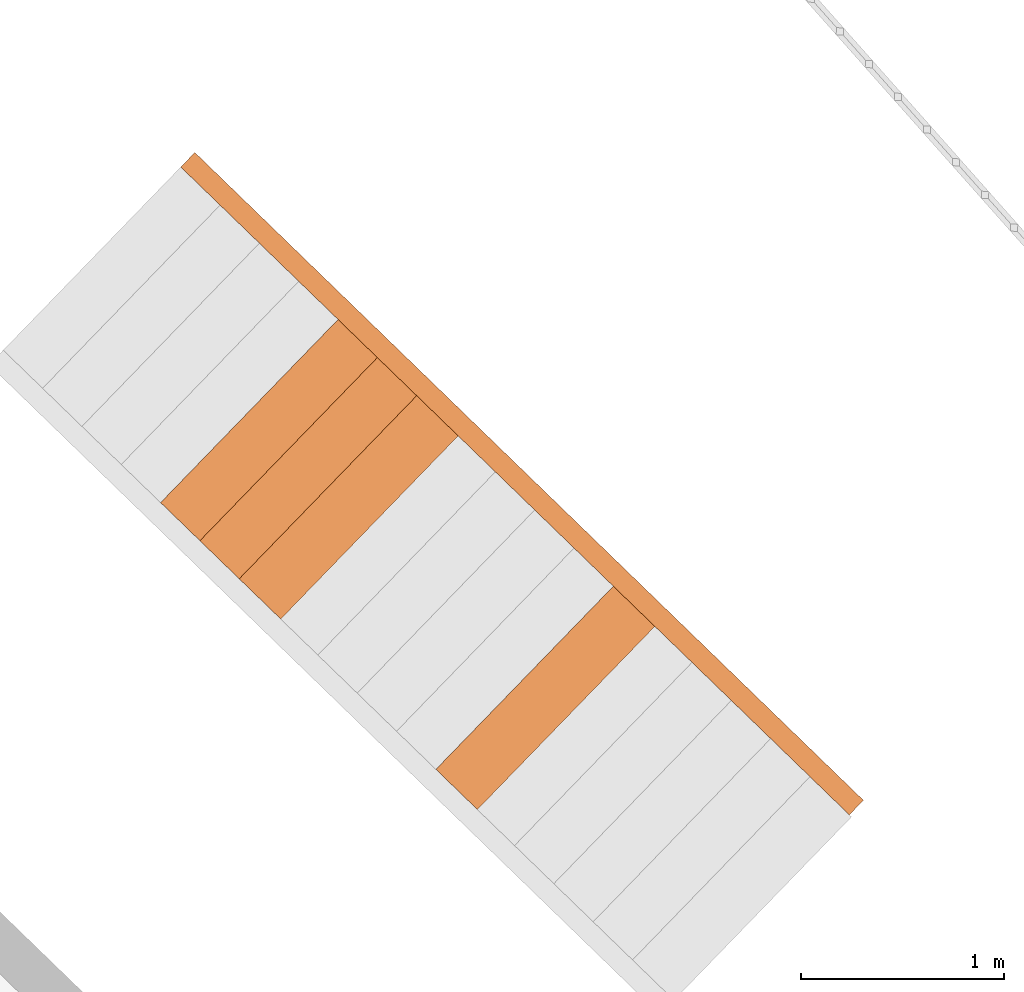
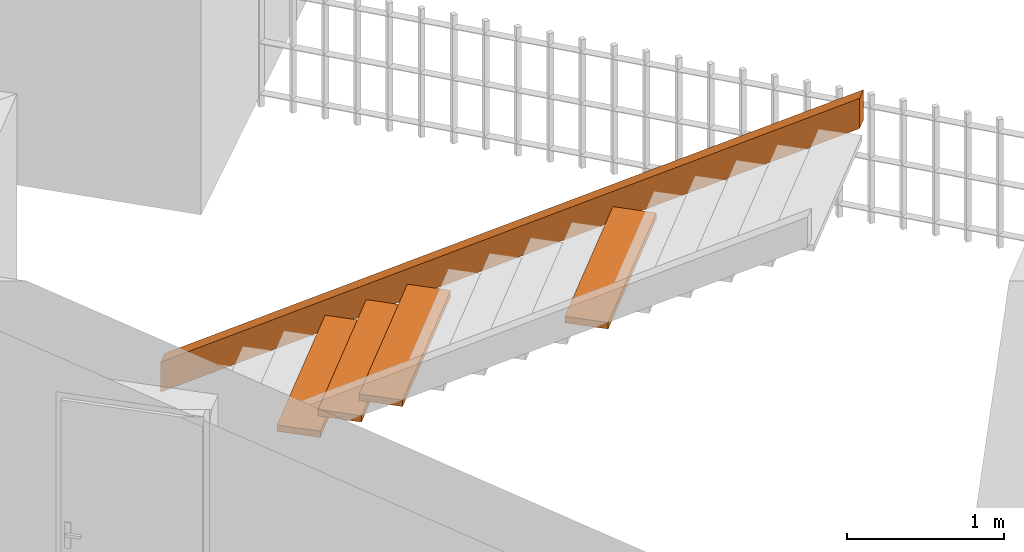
# One storey, part 183 of 195: 5 proxies, 1 element without a shape of its own.
"""IFC2X3 building model written with IfcOpenShell, lengths in metres."""

from ifc_helpers import new_model, entity, si_unit, converted_unit, derived_unit, money_unit, direction, frame, origin_with_axes, place, context, subcontext, project, spatial, faceted_brep, material, type_object, element, aggregate, save


model = new_model("IFC2X3")

# Units and contexts
model_context = context("Model", 3, precision=1e-05, world=origin_with_axes(), true_north=direction((0.0, 1.0)))
body_context = subcontext(model_context, "Body", "Model", "MODEL_VIEW")
ifc_project = project(units=[si_unit("LENGTHUNIT", "METRE"), si_unit("AREAUNIT", "SQUARE_METRE"), si_unit("VOLUMEUNIT", "CUBIC_METRE"), converted_unit("PLANEANGLEUNIT", "DEGREE", entity("IfcPlaneAngleMeasure", 0.0174532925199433), si_unit("PLANEANGLEUNIT", "RADIAN"), dimensions=[0, 0, 0, 0, 0, 0, 0]), money_unit("CHF"), converted_unit("TIMEUNIT", "Year", entity("IfcTimeMeasure", 31557600.0), si_unit("TIMEUNIT", "SECOND"), dimensions=[0, 0, 1, 0, 0, 0, 0]), si_unit("MASSUNIT", "GRAM", prefix="KILO"), si_unit("THERMODYNAMICTEMPERATUREUNIT", "DEGREE_CELSIUS"), si_unit("LUMINOUSINTENSITYUNIT", "LUMEN"), si_unit("ENERGYUNIT", "JOULE", prefix="MEGA"), derived_unit("THERMALCONDUCTANCEUNIT", [(si_unit("POWERUNIT", "WATT"), 1), (si_unit("LENGTHUNIT", "METRE"), -1), (si_unit("THERMODYNAMICTEMPERATUREUNIT", "KELVIN"), -1)]), derived_unit("SPECIFICHEATCAPACITYUNIT", [(si_unit("ENERGYUNIT", "JOULE"), 1), (si_unit("MASSUNIT", "GRAM", prefix="KILO"), -1), (si_unit("THERMODYNAMICTEMPERATUREUNIT", "KELVIN"), -1)]), derived_unit("MASSDENSITYUNIT", [(si_unit("MASSUNIT", "GRAM", prefix="KILO"), 1), (si_unit("VOLUMEUNIT", "CUBIC_METRE"), -1)])], contexts=[model_context])

# Site, building, storey
site_placement = place(None, origin_with_axes())
site = spatial("IfcSite", under=ifc_project, at=site_placement, Name="Site", CompositionType="ELEMENT")
building_placement = place(site_placement, origin_with_axes())
building = spatial("IfcBuilding", under=site, at=building_placement, Name="Bâtiment", CompositionType="ELEMENT")
storey_placement = place(building_placement, origin_with_axes())
storey = spatial("IfcBuildingStorey", under=building, at=storey_placement, Name="rdc", CompositionType="ELEMENT", Elevation=0.0)

# Stair, proxies
stair_placement = place(storey_placement, frame((9527.675793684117, -1057.380353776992, 57.33248236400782), z_axis=(0.0, 0.0, 1.0), x_axis=(-0.8757720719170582, 0.4827248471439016, 0.0)))
stair = element("IfcStair", 1, at=stair_placement, inside=storey, Name="ESC-028", ShapeType="NOTDEFINED")
ifc_material_1 = material(Name="Isolant styromousse 288701002")
building_element_proxy_type = type_object("IfcBuildingElementProxyType", Name="IfcBuildingElementProxy", PredefinedType="NOTDEFINED")
proxy_1_placement = place(stair_placement, origin_with_axes())
proxy_1 = element("IfcBuildingElementProxy", 2, at=proxy_1_placement, type_object=building_element_proxy_type, material=ifc_material_1, Name="SS - 039", context=body_context, shape_type="Brep", body=[
    faceted_brep([(-4.785391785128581, -0.1038036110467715, 2.882482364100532), (-0.3566463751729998, -1.309753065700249, 0.04914903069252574), (-0.3566463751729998, -1.309753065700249, 0.2841843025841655), (-4.785391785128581, -0.1038036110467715, 3.117517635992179), (-4.75911837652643, -0.007316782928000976, 2.882482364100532), (-0.3303729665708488, -1.213266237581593, 0.04914903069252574), (-0.3303729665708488, -1.213266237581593, 0.2841843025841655), (-4.75911837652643, -0.007316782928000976, 3.117517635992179)], [[[0, 1, 2, 3]], [[4, 5, 1, 0]], [[2, 1, 5, 6]], [[3, 2, 6, 7]], [[7, 4, 0, 3]], [[7, 6, 5, 4]]]),
])
ifc_material_2 = material(Name="Lame d'air 275581351")
proxy_2_placement = place(stair_placement, frame((-1.16948377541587, -0.1842083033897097, 0.8333333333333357), z_axis=(0.0, 0.0, 1.0), x_axis=(-0.2627340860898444, -0.9648682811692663, 0.0)))
proxy_2 = element("IfcBuildingElementProxy", 3, at=proxy_2_placement, type_object=building_element_proxy_type, material=ifc_material_2, Name="MARCHE-541", context=body_context, shape_type="Brep", body=[
    faceted_brep([(-0.4850000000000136, 0.0, -0.04999999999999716), (-0.4850000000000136, 0.0, 0.0), (0.7724423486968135, -2.852402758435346e-10, 0.0), (0.7724423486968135, -2.852402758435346e-10, -0.04999999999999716), (-0.4849999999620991, -0.2849999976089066, -0.04999999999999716), (-0.4849999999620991, -0.2849999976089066, 0.0), (0.7724423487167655, -0.2849999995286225, 0.0), (0.7724423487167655, -0.2849999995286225, -0.04999999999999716)], [[[0, 1, 2, 3]], [[4, 5, 1, 0]], [[1, 5, 6, 2]], [[3, 2, 6, 7]], [[0, 3, 7, 4]], [[7, 6, 5, 4]]]),
])
proxy_3_placement = place(stair_placement, frame((-1.429998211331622, -0.1132701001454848, 1.0), z_axis=(0.0, 0.0, 1.0), x_axis=(-0.2627340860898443, -0.9648682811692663, 0.0)))
proxy_3 = element("IfcBuildingElementProxy", 4, at=proxy_3_placement, type_object=building_element_proxy_type, material=ifc_material_2, Name="MARCHE-542", context=body_context, shape_type="Brep", body=[
    faceted_brep([(-0.4850000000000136, 0.0, -0.04999999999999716), (-0.4850000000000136, 0.0, 0.0), (0.7724423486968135, -2.853539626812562e-10, 0.0), (0.7724423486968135, -2.853539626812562e-10, -0.04999999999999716), (-0.4849999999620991, -0.2849999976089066, -0.04999999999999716), (-0.4849999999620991, -0.2849999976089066, 0.0), (0.772442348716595, -0.2849999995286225, 0.0), (0.772442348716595, -0.2849999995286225, -0.04999999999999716)], [[[0, 1, 2, 3]], [[4, 5, 1, 0]], [[1, 5, 6, 2]], [[3, 2, 6, 7]], [[0, 3, 7, 4]], [[7, 6, 5, 4]]]),
])
proxy_4_placement = place(stair_placement, frame((-1.690512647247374, -0.04233189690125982, 1.166666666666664), z_axis=(0.0, 0.0, 1.0), x_axis=(-0.2627340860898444, -0.9648682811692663, 0.0)))
proxy_4 = element("IfcBuildingElementProxy", 5, at=proxy_4_placement, type_object=building_element_proxy_type, material=ifc_material_2, Name="MARCHE-543", context=body_context, shape_type="Brep", body=[
    faceted_brep([(-0.4849999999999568, 0.0, -0.04999999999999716), (-0.4849999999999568, 0.0, 0.0), (0.7724423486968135, -2.854676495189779e-10, 0.0), (0.7724423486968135, -2.854676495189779e-10, -0.04999999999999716), (-0.4849999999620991, -0.2849999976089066, -0.04999999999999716), (-0.4849999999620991, -0.2849999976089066, 0.0), (0.7724423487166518, -0.2849999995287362, 0.0), (0.7724423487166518, -0.2849999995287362, -0.04999999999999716)], [[[0, 1, 2, 3]], [[4, 5, 1, 0]], [[1, 5, 6, 2]], [[3, 2, 6, 7]], [[0, 3, 7, 4]], [[7, 6, 5, 4]]]),
])
proxy_5_placement = place(stair_placement, frame((-2.993084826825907, 0.3123591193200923, 2.0), z_axis=(0.0, 0.0, 1.0), x_axis=(-0.2627340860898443, -0.9648682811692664, 0.0)))
proxy_5 = element("IfcBuildingElementProxy", 6, at=proxy_5_placement, type_object=building_element_proxy_type, material=ifc_material_2, Name="MARCHE-548", context=body_context, shape_type="Brep", body=[
    faceted_brep([(-0.4849999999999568, 0.0, -0.04999999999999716), (-0.4849999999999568, 0.0, 0.0), (0.7724423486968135, -2.853539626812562e-10, 0.0), (0.7724423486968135, -2.853539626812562e-10, -0.04999999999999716), (-0.4849999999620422, -0.2849999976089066, -0.04999999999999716), (-0.4849999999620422, -0.2849999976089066, 0.0), (0.7724423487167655, -0.2849999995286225, 0.0), (0.7724423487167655, -0.2849999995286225, -0.04999999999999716)], [[[0, 1, 2, 3]], [[4, 5, 1, 0]], [[1, 5, 6, 2]], [[3, 2, 6, 7]], [[0, 3, 7, 4]], [[7, 6, 5, 4]]]),
])
aggregate(stair, [proxy_1, proxy_2, proxy_3, proxy_4, proxy_5])

save(model, "model.ifc")
